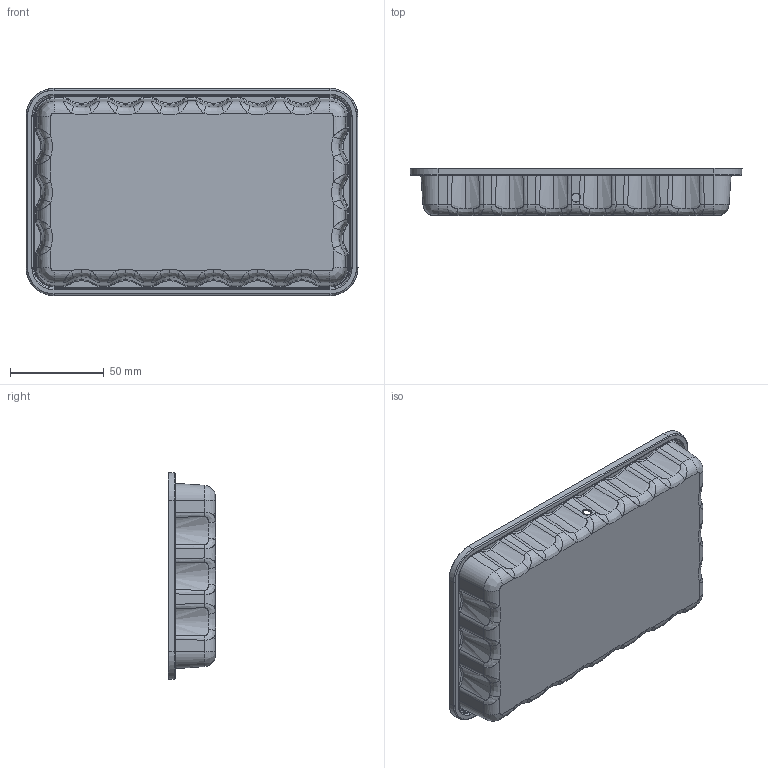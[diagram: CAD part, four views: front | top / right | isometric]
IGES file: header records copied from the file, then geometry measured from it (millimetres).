
Start section: SolidWorks IGES file using analytic representation for surfaces
Global section: file name: C:\Working\Micro_Cases\1040_OEM_BTM.IGS; native system: SolidWorks 2007; preprocessor: SolidWorks 2007; author: elopez; date: 081027.165747; units: inch
Bounding box: 177.32 x 25.15 x 110.64 mm (x, y, z)
Surface area: 62861.4 mm2 (no closed solid volume)
Topology: 0 solids, 0 shells, 584 faces, 4539 edges, 4539 vertices
Faces by surface type: bspline 406, revolution 178
